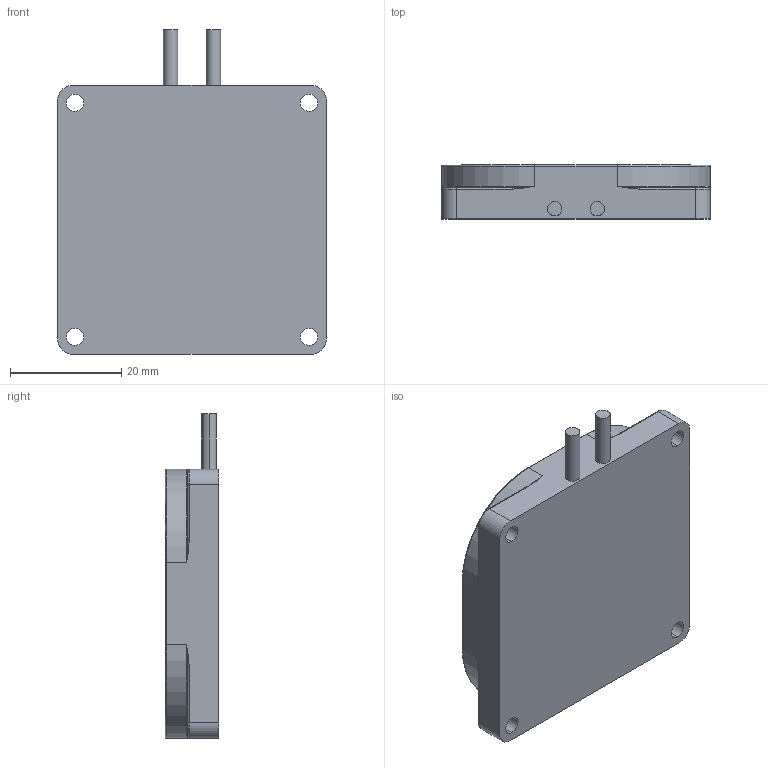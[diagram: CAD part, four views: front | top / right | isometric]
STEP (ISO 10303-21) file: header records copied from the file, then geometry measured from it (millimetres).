
FILE_DESCRIPTION (( 'STEP AP214' ), '1' );
FILE_NAME ('NSL Duplex Antenna.STEP', '2018-04-27T19:01:39', ( '' ), ( '' ), 'SwSTEP 2.0', 'SolidWorks 2014', '' );
FILE_SCHEMA (( 'AUTOMOTIVE_DESIGN' ));
Length unit declared in the file: inch
Products named in the file (2): NSL Duplex Antenna
Bounding box: 48.41 x 9.66 x 58.41 mm (x, y, z)
Volume: 21540.1 mm3; surface area: 6680.1 mm2
Topology: 1 solids, 1 shells, 64 faces, 156 edges, 88 vertices
Faces by surface type: cylinder 32, bspline 16, plane 12, torus 4
Entity records: 2341 total; most frequent: CARTESIAN_POINT 814, ORIENTED_EDGE 296, DIRECTION 292, EDGE_CURVE 148, AXIS2_PLACEMENT_3D 118, VERTEX_POINT 88, EDGE_LOOP 74, CIRCLE 68
